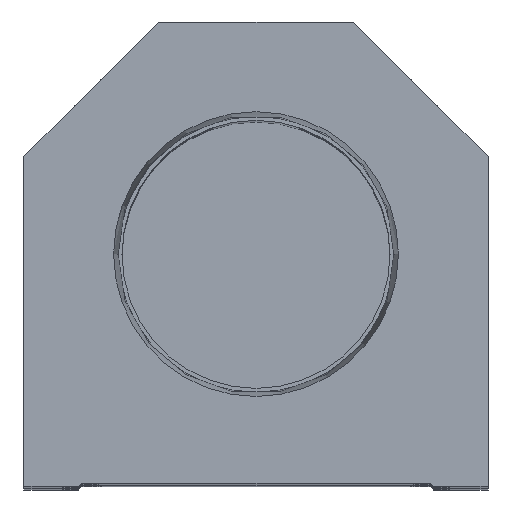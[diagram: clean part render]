
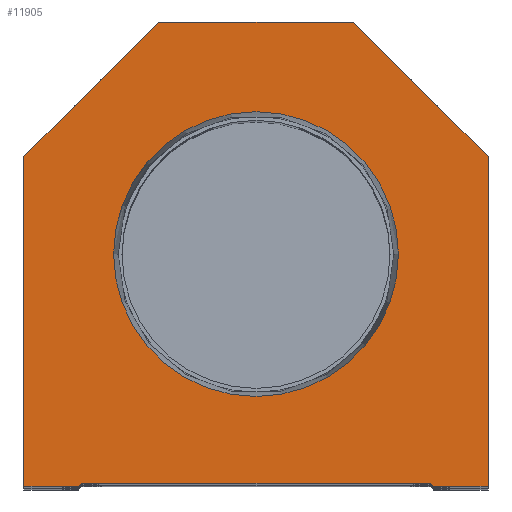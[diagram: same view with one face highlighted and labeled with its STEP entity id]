
A CAD part, top view. The second image highlights one B-rep face of the part: STEP entity #11905.
In plain terms, the highlighted planar face has unit normal (0, 0, 1).
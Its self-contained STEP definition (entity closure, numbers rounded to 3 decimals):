
#15 = DIRECTION ( 'NONE',  ( 1., 0., 0. ) ) ;
#54 = VECTOR ( 'NONE', #5938, 1000. ) ;
#126 = CARTESIAN_POINT ( 'NONE',  ( -28.6, 0., 0. ) ) ;
#519 = DIRECTION ( 'NONE',  ( -0.707, 0.707, 0. ) ) ;
#787 = CARTESIAN_POINT ( 'NONE',  ( -28.6, 0.5, 0. ) ) ;
#817 = CARTESIAN_POINT ( 'NONE',  ( 14.55, 14.55, 0. ) ) ;
#842 = EDGE_CURVE ( 'NONE', #5407, #6795, #2359, .T. ) ;
#863 = ORIENTED_EDGE ( 'NONE', *, *, #11466, .T. ) ;
#875 = ORIENTED_EDGE ( 'NONE', *, *, #2298, .T. ) ;
#959 = VECTOR ( 'NONE', #7841, 1000. ) ;
#1615 = VERTEX_POINT ( 'NONE', #13984 ) ;
#1929 = ORIENTED_EDGE ( 'NONE', *, *, #3702, .T. ) ;
#2298 = EDGE_CURVE ( 'NONE', #3722, #14762, #7924, .T. ) ;
#2359 = LINE ( 'NONE', #21755, #54 ) ;
#2580 = DIRECTION ( 'NONE',  ( 0., 0., 1. ) ) ;
#3101 = ORIENTED_EDGE ( 'NONE', *, *, #18987, .T. ) ;
#3312 = LINE ( 'NONE', #22559, #6326 ) ;
#3448 = EDGE_CURVE ( 'NONE', #14762, #9375, #16582, .T. ) ;
#3459 = VECTOR ( 'NONE', #13625, 1000. ) ;
#3702 = EDGE_CURVE ( 'NONE', #6795, #13302, #21622, .T. ) ;
#3722 = VERTEX_POINT ( 'NONE', #9274 ) ;
#3795 = CARTESIAN_POINT ( 'NONE',  ( -38.1, 54.1, 0. ) ) ;
#3858 = EDGE_CURVE ( 'NONE', #1615, #20575, #10881, .T. ) ;
#4045 = CARTESIAN_POINT ( 'NONE',  ( 0., 0., 0. ) ) ;
#4226 = CARTESIAN_POINT ( 'NONE',  ( -23.374, 38.1, 0. ) ) ;
#4289 = VECTOR ( 'NONE', #519, 1000. ) ;
#4542 = VERTEX_POINT ( 'NONE', #8430 ) ;
#4633 = CIRCLE ( 'NONE', #12345, 23.374 ) ;
#4669 = VECTOR ( 'NONE', #16306, 1000. ) ;
#4784 = EDGE_CURVE ( 'NONE', #9375, #5407, #16859, .T. ) ;
#5108 = ORIENTED_EDGE ( 'NONE', *, *, #11046, .F. ) ;
#5265 = CARTESIAN_POINT ( 'NONE',  ( 0., 38.1, 0. ) ) ;
#5407 = VERTEX_POINT ( 'NONE', #14629 ) ;
#5575 = CARTESIAN_POINT ( 'NONE',  ( -38.1, 0., 0. ) ) ;
#5648 = PLANE ( 'NONE',  #14948 ) ;
#5938 = DIRECTION ( 'NONE',  ( 0., 1., 0. ) ) ;
#6326 = VECTOR ( 'NONE', #8832, 1000. ) ;
#6333 = CARTESIAN_POINT ( 'NONE',  ( 28.6, 0.5, 0. ) ) ;
#6514 = DIRECTION ( 'NONE',  ( 1., 0., 0. ) ) ;
#6795 = VERTEX_POINT ( 'NONE', #8058 ) ;
#7204 = CARTESIAN_POINT ( 'NONE',  ( 38.1, 54.1, 0. ) ) ;
#7642 = VERTEX_POINT ( 'NONE', #8510 ) ;
#7711 = FACE_OUTER_BOUND ( 'NONE', #10802, .T. ) ;
#7841 = DIRECTION ( 'NONE',  ( 0.707, -0.707, 0. ) ) ;
#7924 = LINE ( 'NONE', #787, #22523 ) ;
#8058 = CARTESIAN_POINT ( 'NONE',  ( 38.1, 54.1, 0. ) ) ;
#8430 = CARTESIAN_POINT ( 'NONE',  ( -29.1, 0., 0. ) ) ;
#8510 = CARTESIAN_POINT ( 'NONE',  ( -16., 76.2, 0. ) ) ;
#8832 = DIRECTION ( 'NONE',  ( -1., 0., 0. ) ) ;
#9274 = CARTESIAN_POINT ( 'NONE',  ( -28.6, 0.5, 0. ) ) ;
#9296 = CARTESIAN_POINT ( 'NONE',  ( -38.1, 0., 0. ) ) ;
#9352 = EDGE_CURVE ( 'NONE', #4542, #3722, #15579, .T. ) ;
#9375 = VERTEX_POINT ( 'NONE', #19171 ) ;
#9465 = VERTEX_POINT ( 'NONE', #4226 ) ;
#9885 = DIRECTION ( 'NONE',  ( 1., 0., 0. ) ) ;
#10474 = LINE ( 'NONE', #126, #18989 ) ;
#10475 = ORIENTED_EDGE ( 'NONE', *, *, #842, .T. ) ;
#10757 = DIRECTION ( 'NONE',  ( 1., 0., 0. ) ) ;
#10802 = EDGE_LOOP ( 'NONE', ( #863, #17940, #875, #22202, #13803, #10475, #1929, #14889, #3101, #18652 ) ) ;
#10881 = LINE ( 'NONE', #9296, #4669 ) ;
#11046 = EDGE_CURVE ( 'NONE', #9465, #18316, #4633, .T. ) ;
#11466 = EDGE_CURVE ( 'NONE', #20575, #4542, #10474, .T. ) ;
#11905 = ADVANCED_FACE ( 'NONE', ( #21799, #7711 ), #5648, .T. ) ;
#12118 = CARTESIAN_POINT ( 'NONE',  ( -14.55, 14.55, 0. ) ) ;
#12345 = AXIS2_PLACEMENT_3D ( 'NONE', #5265, #19342, #10757 ) ;
#12531 = LINE ( 'NONE', #3795, #20307 ) ;
#12671 = DIRECTION ( 'NONE',  ( 1., 0., 0. ) ) ;
#13253 = EDGE_CURVE ( 'NONE', #18316, #9465, #14189, .T. ) ;
#13302 = VERTEX_POINT ( 'NONE', #16976 ) ;
#13369 = ORIENTED_EDGE ( 'NONE', *, *, #13253, .F. ) ;
#13625 = DIRECTION ( 'NONE',  ( 0.707, 0.707, 0. ) ) ;
#13803 = ORIENTED_EDGE ( 'NONE', *, *, #4784, .T. ) ;
#13984 = CARTESIAN_POINT ( 'NONE',  ( -38.1, 54.1, 0. ) ) ;
#14033 = DIRECTION ( 'NONE',  ( -0.707, -0.707, 0. ) ) ;
#14189 = CIRCLE ( 'NONE', #21626, 23.374 ) ;
#14629 = CARTESIAN_POINT ( 'NONE',  ( 38.1, 0., 0. ) ) ;
#14740 = DIRECTION ( 'NONE',  ( 0., 0., 1. ) ) ;
#14762 = VERTEX_POINT ( 'NONE', #6333 ) ;
#14889 = ORIENTED_EDGE ( 'NONE', *, *, #19505, .T. ) ;
#14948 = AXIS2_PLACEMENT_3D ( 'NONE', #4045, #14740, #12671 ) ;
#15579 = LINE ( 'NONE', #12118, #3459 ) ;
#16306 = DIRECTION ( 'NONE',  ( 0., -1., 0. ) ) ;
#16516 = CARTESIAN_POINT ( 'NONE',  ( 0., 38.1, 0. ) ) ;
#16582 = LINE ( 'NONE', #817, #959 ) ;
#16859 = LINE ( 'NONE', #22199, #22760 ) ;
#16976 = CARTESIAN_POINT ( 'NONE',  ( 16., 76.2, 0. ) ) ;
#17940 = ORIENTED_EDGE ( 'NONE', *, *, #9352, .T. ) ;
#18316 = VERTEX_POINT ( 'NONE', #22534 ) ;
#18652 = ORIENTED_EDGE ( 'NONE', *, *, #3858, .T. ) ;
#18809 = EDGE_LOOP ( 'NONE', ( #13369, #5108 ) ) ;
#18987 = EDGE_CURVE ( 'NONE', #7642, #1615, #12531, .T. ) ;
#18989 = VECTOR ( 'NONE', #15, 1000. ) ;
#19171 = CARTESIAN_POINT ( 'NONE',  ( 29.1, 0., 0. ) ) ;
#19342 = DIRECTION ( 'NONE',  ( 0., 0., 1. ) ) ;
#19505 = EDGE_CURVE ( 'NONE', #13302, #7642, #3312, .T. ) ;
#20307 = VECTOR ( 'NONE', #14033, 1000. ) ;
#20575 = VERTEX_POINT ( 'NONE', #5575 ) ;
#21622 = LINE ( 'NONE', #7204, #4289 ) ;
#21626 = AXIS2_PLACEMENT_3D ( 'NONE', #16516, #2580, #6514 ) ;
#21672 = DIRECTION ( 'NONE',  ( 1., 0., 0. ) ) ;
#21755 = CARTESIAN_POINT ( 'NONE',  ( 38.1, 0., 0. ) ) ;
#21799 = FACE_BOUND ( 'NONE', #18809, .T. ) ;
#22199 = CARTESIAN_POINT ( 'NONE',  ( 28.6, 0., 0. ) ) ;
#22202 = ORIENTED_EDGE ( 'NONE', *, *, #3448, .T. ) ;
#22523 = VECTOR ( 'NONE', #9885, 1000. ) ;
#22534 = CARTESIAN_POINT ( 'NONE',  ( 23.374, 38.1, 0. ) ) ;
#22559 = CARTESIAN_POINT ( 'NONE',  ( 16., 76.2, 0. ) ) ;
#22760 = VECTOR ( 'NONE', #21672, 1000. ) ;
